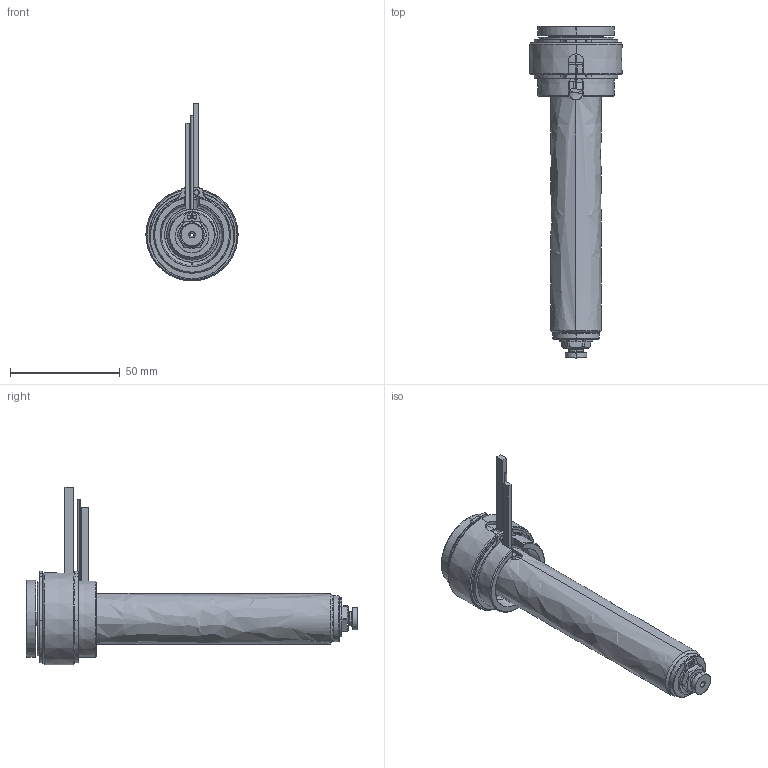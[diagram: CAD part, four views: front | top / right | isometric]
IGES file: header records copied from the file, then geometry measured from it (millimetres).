
Start section: SolidWorks IGES file using analytic representation for surfaces
Global section: file name: C:\Users\luca.EMPAD\Desktop\TEM\UGBE3503-S-A-5 [Ød-1.5 P-0 ØC-6.0].IGS; native system: SolidWorks 2012; preprocessor: SolidWorks 2012; author: luca; date: 120330.135707; units: millimetre
Bounding box: 42 x 151 x 80.9 mm (x, y, z)
Surface area: 37527.6 mm2 (no closed solid volume)
Topology: 0 solids, 0 shells, 191 faces, 3594 edges, 3594 vertices
Faces by surface type: revolution 122, bspline 69
